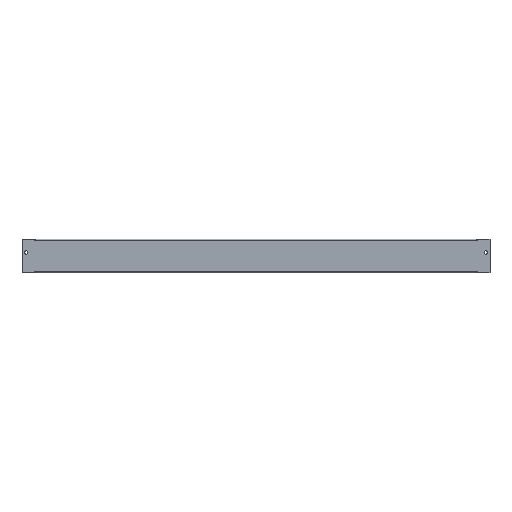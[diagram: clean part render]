
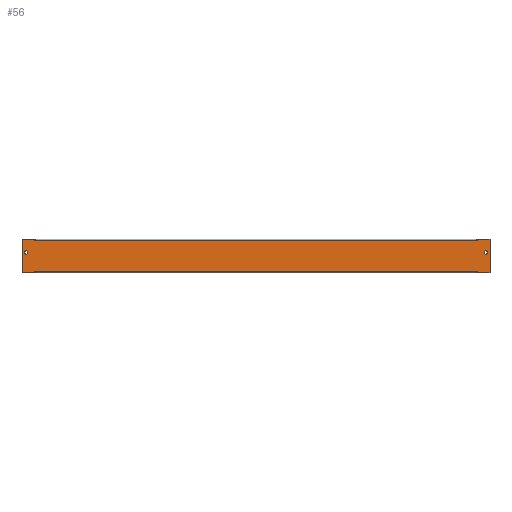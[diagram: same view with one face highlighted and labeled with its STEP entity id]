
A CAD part, top view. The second image highlights one B-rep face of the part: STEP entity #56.
In plain terms, the highlighted planar face has unit normal (0, 0, 1).
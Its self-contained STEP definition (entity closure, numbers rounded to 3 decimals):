
#56=ADVANCED_FACE('',(#118,#120,#122),#124,.F.);
#118=FACE_BOUND('',#119,.T.);
#119=EDGE_LOOP('',(#375,#376,#377,#378,#379,#380,#381,#382,#383,#384,#385,#386,#387,
#388,#389,#390));
#120=FACE_BOUND('',#121,.T.);
#121=EDGE_LOOP('',(#391));
#122=FACE_BOUND('',#123,.T.);
#123=EDGE_LOOP('',(#392));
#124=PLANE('',#125);
#125=AXIS2_PLACEMENT_3D('',#126,#127,#128);
#126=CARTESIAN_POINT('',(0.,0.,0.));
#127=DIRECTION('',(0.,0.,-1.));
#128=DIRECTION('',(-1.,0.,0.));
#375=ORIENTED_EDGE('',*,*,#541,.F.);
#376=ORIENTED_EDGE('',*,*,#542,.T.);
#377=ORIENTED_EDGE('',*,*,#543,.F.);
#378=ORIENTED_EDGE('',*,*,#544,.F.);
#379=ORIENTED_EDGE('',*,*,#545,.T.);
#380=ORIENTED_EDGE('',*,*,#546,.T.);
#381=ORIENTED_EDGE('',*,*,#547,.T.);
#382=ORIENTED_EDGE('',*,*,#548,.F.);
#383=ORIENTED_EDGE('',*,*,#549,.F.);
#384=ORIENTED_EDGE('',*,*,#550,.T.);
#385=ORIENTED_EDGE('',*,*,#551,.F.);
#386=ORIENTED_EDGE('',*,*,#552,.F.);
#387=ORIENTED_EDGE('',*,*,#553,.T.);
#388=ORIENTED_EDGE('',*,*,#554,.T.);
#389=ORIENTED_EDGE('',*,*,#555,.T.);
#390=ORIENTED_EDGE('',*,*,#556,.F.);
#391=ORIENTED_EDGE('',*,*,#521,.T.);
#392=ORIENTED_EDGE('',*,*,#523,.F.);
#521=EDGE_CURVE('',#605,#605,#606,.T.);
#523=EDGE_CURVE('',#609,#609,#610,.T.);
#541=EDGE_CURVE('',#645,#646,#647,.T.);
#542=EDGE_CURVE('',#645,#648,#649,.T.);
#543=EDGE_CURVE('',#650,#648,#651,.T.);
#544=EDGE_CURVE('',#652,#650,#653,.T.);
#545=EDGE_CURVE('',#652,#654,#655,.T.);
#546=EDGE_CURVE('',#654,#656,#657,.T.);
#547=EDGE_CURVE('',#656,#658,#659,.T.);
#548=EDGE_CURVE('',#660,#658,#661,.T.);
#549=EDGE_CURVE('',#662,#660,#663,.T.);
#550=EDGE_CURVE('',#662,#664,#665,.T.);
#551=EDGE_CURVE('',#666,#664,#667,.T.);
#552=EDGE_CURVE('',#668,#666,#669,.T.);
#553=EDGE_CURVE('',#668,#670,#671,.T.);
#554=EDGE_CURVE('',#670,#672,#673,.T.);
#555=EDGE_CURVE('',#672,#674,#675,.T.);
#556=EDGE_CURVE('',#646,#674,#676,.T.);
#605=VERTEX_POINT('',#741);
#606=CIRCLE('',#742,3.15);
#609=VERTEX_POINT('',#751);
#610=CIRCLE('',#752,3.15);
#645=VERTEX_POINT('',#825);
#646=VERTEX_POINT('',#826);
#647=LINE('',#827,#828);
#648=VERTEX_POINT('',#830);
#649=LINE('',#831,#832);
#650=VERTEX_POINT('',#834);
#651=LINE('',#835,#836);
#652=VERTEX_POINT('',#838);
#653=LINE('',#839,#840);
#654=VERTEX_POINT('',#842);
#655=LINE('',#843,#844);
#656=VERTEX_POINT('',#846);
#657=LINE('',#847,#848);
#658=VERTEX_POINT('',#850);
#659=LINE('',#851,#852);
#660=VERTEX_POINT('',#854);
#661=LINE('',#855,#856);
#662=VERTEX_POINT('',#858);
#663=LINE('',#859,#860);
#664=VERTEX_POINT('',#862);
#665=LINE('',#863,#864);
#666=VERTEX_POINT('',#866);
#667=LINE('',#867,#868);
#668=VERTEX_POINT('',#870);
#669=LINE('',#871,#872);
#670=VERTEX_POINT('',#874);
#671=LINE('',#875,#876);
#672=VERTEX_POINT('',#878);
#673=LINE('',#879,#880);
#674=VERTEX_POINT('',#882);
#675=LINE('',#883,#884);
#676=LINE('',#886,#887);
#741=CARTESIAN_POINT('',(431.15,6.5,0.));
#742=AXIS2_PLACEMENT_3D('',#743,#744,#745);
#743=CARTESIAN_POINT('',(428.,6.5,0.));
#744=DIRECTION('',(0.,0.,-1.));
#745=DIRECTION('',(1.,0.,0.));
#751=CARTESIAN_POINT('',(-424.85,6.5,0.));
#752=AXIS2_PLACEMENT_3D('',#753,#754,#755);
#753=CARTESIAN_POINT('',(-428.,6.5,0.));
#754=DIRECTION('',(0.,0.,1.));
#755=DIRECTION('',(-1.,0.,0.));
#825=CARTESIAN_POINT('',(411.,28.3,0.));
#826=CARTESIAN_POINT('',(413.,28.3,0.));
#827=CARTESIAN_POINT('',(411.,28.3,0.));
#828=VECTOR('',#829,1.);
#829=DIRECTION('',(1.,0.,0.));
#830=CARTESIAN_POINT('',(-411.,28.3,0.));
#831=CARTESIAN_POINT('',(411.,28.3,0.));
#832=VECTOR('',#833,1.);
#833=DIRECTION('',(-1.,0.,0.));
#834=CARTESIAN_POINT('',(-413.,28.3,0.));
#835=CARTESIAN_POINT('',(-413.,28.3,0.));
#836=VECTOR('',#837,1.);
#837=DIRECTION('',(1.,0.,0.));
#838=CARTESIAN_POINT('',(-413.,31.5,0.));
#839=CARTESIAN_POINT('',(-413.,31.5,0.));
#840=VECTOR('',#841,1.);
#841=DIRECTION('',(0.,-1.,0.));
#842=CARTESIAN_POINT('',(-436.,31.5,0.));
#843=CARTESIAN_POINT('',(-413.,31.5,0.));
#844=VECTOR('',#845,1.);
#845=DIRECTION('',(-1.,0.,0.));
#846=CARTESIAN_POINT('',(-436.,-31.5,0.));
#847=CARTESIAN_POINT('',(-436.,31.5,0.));
#848=VECTOR('',#849,1.);
#849=DIRECTION('',(0.,-1.,0.));
#850=CARTESIAN_POINT('',(-413.,-31.5,0.));
#851=CARTESIAN_POINT('',(-436.,-31.5,0.));
#852=VECTOR('',#853,1.);
#853=DIRECTION('',(1.,0.,0.));
#854=CARTESIAN_POINT('',(-413.,-28.3,0.));
#855=CARTESIAN_POINT('',(-413.,-28.3,0.));
#856=VECTOR('',#857,1.);
#857=DIRECTION('',(0.,-1.,0.));
#858=CARTESIAN_POINT('',(-411.,-28.3,0.));
#859=CARTESIAN_POINT('',(-411.,-28.3,0.));
#860=VECTOR('',#861,1.);
#861=DIRECTION('',(-1.,0.,0.));
#862=CARTESIAN_POINT('',(411.,-28.3,0.));
#863=CARTESIAN_POINT('',(-411.,-28.3,0.));
#864=VECTOR('',#865,1.);
#865=DIRECTION('',(1.,0.,0.));
#866=CARTESIAN_POINT('',(413.,-28.3,0.));
#867=CARTESIAN_POINT('',(413.,-28.3,0.));
#868=VECTOR('',#869,1.);
#869=DIRECTION('',(-1.,0.,0.));
#870=CARTESIAN_POINT('',(413.,-31.5,0.));
#871=CARTESIAN_POINT('',(413.,-31.5,0.));
#872=VECTOR('',#873,1.);
#873=DIRECTION('',(0.,1.,0.));
#874=CARTESIAN_POINT('',(436.,-31.5,0.));
#875=CARTESIAN_POINT('',(413.,-31.5,0.));
#876=VECTOR('',#877,1.);
#877=DIRECTION('',(1.,0.,0.));
#878=CARTESIAN_POINT('',(436.,31.5,0.));
#879=CARTESIAN_POINT('',(436.,-31.5,0.));
#880=VECTOR('',#881,1.);
#881=DIRECTION('',(0.,1.,0.));
#882=CARTESIAN_POINT('',(413.,31.5,0.));
#883=CARTESIAN_POINT('',(436.,31.5,0.));
#884=VECTOR('',#885,1.);
#885=DIRECTION('',(-1.,0.,0.));
#886=CARTESIAN_POINT('',(413.,28.3,0.));
#887=VECTOR('',#888,1.);
#888=DIRECTION('',(0.,1.,0.));
